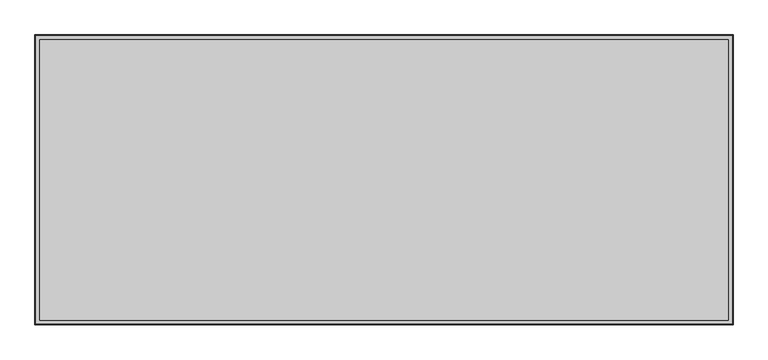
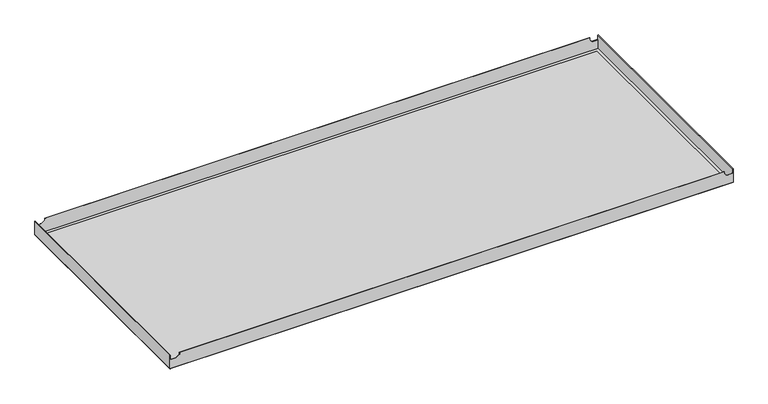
"""IFC4 building model written with IfcOpenShell, lengths in millimetres: proxy geometry, durlum_S1.12KD_panel : durlum_S1.12KD_panel_wall_width_cut."""

from ifc_helpers import new_model, si_unit, frame, origin, origin_with_axes, place, context, project, spatial, polyline, outline, extrude, faceted_brep, source, transform, mapped, element, save


def generic_models_52b0cff2(model_context):
    return source(origin(), model_context, "Body", "SolidModel", [
        faceted_brep([(-600.0, 249.0, 30.0), (-600.0, -249.0, 30.0), (-599.4, -249.0, 30.0), (-599.4, 249.0, 30.0), (600.0, -249.0, 30.0), (600.0, 249.0, 30.0), (599.4, 249.0, 30.0), (599.4, -249.0, 30.0), (-579.4, 249.0, 30.0), (-579.4, 248.4, 30.0), (581.4, 248.4, 30.0), (581.4, 249.0, 30.0), (-579.4, -248.4, 30.0), (-579.4, -249.0, 30.0), (581.4, -249.0, 30.0), (581.4, -248.4, 30.0), (600.0, 249.0, 0.6), (600.0, -249.0, 0.6), (-600.0, -249.0, 0.6), (-600.0, 249.0, 0.6), (599.4, 248.4, 0.6), (-599.4, 248.4, 0.6), (-599.4, -248.4, 0.6), (599.4, -248.4, 0.6), (-599.4, 249.0, 20.1669893), (-586.6658218, 249.0, 20.1669893), (-579.4, 249.0, 25.4328111), (581.4, 249.0, 25.4469988), (586.6800094, 249.0, 20.1669893), (599.4, 249.0, 20.1669893), (599.4, -249.0, 20.1669893), (586.6800094, -249.0, 20.1669893), (581.4, -249.0, 25.4469988), (-579.4, -249.0, 25.4328111), (-586.6658218, -249.0, 20.1669893), (-599.4, -249.0, 20.1669893), (599.4, 248.4, 20.1669893), (599.4, -248.4, 20.1669893), (-599.4, -248.4, 20.1669893), (-586.6658218, -248.4, 20.1669893), (-579.4, -248.4, 25.4328111), (581.4, -248.4, 25.4469988), (586.6800094, -248.4, 20.1669893), (-599.4, 248.4, 20.1669893), (586.6800094, 248.4, 20.1669893), (581.4, 248.4, 25.4469988), (-579.4, 248.4, 25.4328111), (-586.6658218, 248.4, 20.1669893)], [[[0, 1, 2, 3]], [[4, 5, 6, 7]], [[8, 9, 10, 11]], [[12, 13, 14, 15]], [[16, 17, 18, 19], [20, 21, 22, 23]], [[16, 19, 0, 3, 24, 25, 26, 8, 11, 27, 28, 29, 6, 5]], [[1, 0, 19, 18]], [[18, 17, 4, 7, 30, 31, 32, 14, 13, 33, 34, 35, 2, 1]], [[5, 4, 17, 16]], [[6, 29, 36, 20, 23, 37, 30, 7]], [[23, 22, 38, 39, 40, 12, 15, 41, 42, 37]], [[22, 21, 43, 24, 3, 2, 35, 38]], [[21, 20, 36, 44, 45, 10, 9, 46, 47, 43]], [[38, 35, 34, 39]], [[24, 43, 47, 25]], [[39, 34, 33, 40]], [[25, 47, 46, 26]], [[40, 33, 13, 12]], [[26, 46, 9, 8]], [[36, 29, 28, 44]], [[30, 37, 42, 31]], [[44, 28, 27, 45]], [[31, 42, 41, 32]], [[32, 41, 15, 14]], [[45, 27, 11, 10]]]),
        extrude(outline(polyline([(592.0, 241.0), (592.0, -241.0), (-592.0, -241.0), (-592.0, 241.0), (592.0, 241.0)])), frame((0.0, 0.0, 0.6), z_axis=(0.0, 0.0, 1.0), x_axis=(1.0, 0.0, 0.0)), (0.0, 0.0, 1.0), 0.6),
        extrude(outline(polyline([(600.0, 249.0), (600.0, -249.0), (-600.0, -249.0), (-600.0, 249.0), (600.0, 249.0)]), holes=[polyline([(592.0, 241.0), (-592.0, 241.0), (-592.0, -241.0), (592.0, -241.0), (592.0, 241.0)])]), origin_with_axes(), (0.0, 0.0, 1.0), 0.6),
        extrude(outline(polyline([(592.0, 241.0), (592.0, -241.0), (-592.0, -241.0), (-592.0, 241.0), (592.0, 241.0)])), origin_with_axes(), (0.0, 0.0, 1.0), 0.6),
    ])


if __name__ == "__main__":
    model = new_model("IFC4")
    model_context = context("Model", 3, world=origin())
    ifc_project = project(units=[si_unit("LENGTHUNIT", "METRE", prefix="MILLI")], contexts=[model_context])
    site = spatial("IfcSite", under=ifc_project)
    building = spatial("IfcBuilding", under=site)
    placement = place(None, origin())
    generic_models_shape = generic_models_52b0cff2(model_context)
    element("IfcBuildingElementProxy", 1, Name="durlum_S1.12KD_panel : durlum_S1.12KD_panel_wall_width_cut", ObjectType="durlum_S1.12KD_panel : durlum_S1.12KD_panel_wall_width_cut", at=placement, inside=building, context=model_context, shape_type="MappedRepresentation", body=[
        mapped(generic_models_shape, transform((0.0, 0.0, 0.0), x_axis=(1.0, 0.0, 0.0), y_axis=(0.0, 1.0, 0.0), z_axis=(0.0, 0.0, 1.0))),
    ])
    save(model, "model.ifc")
